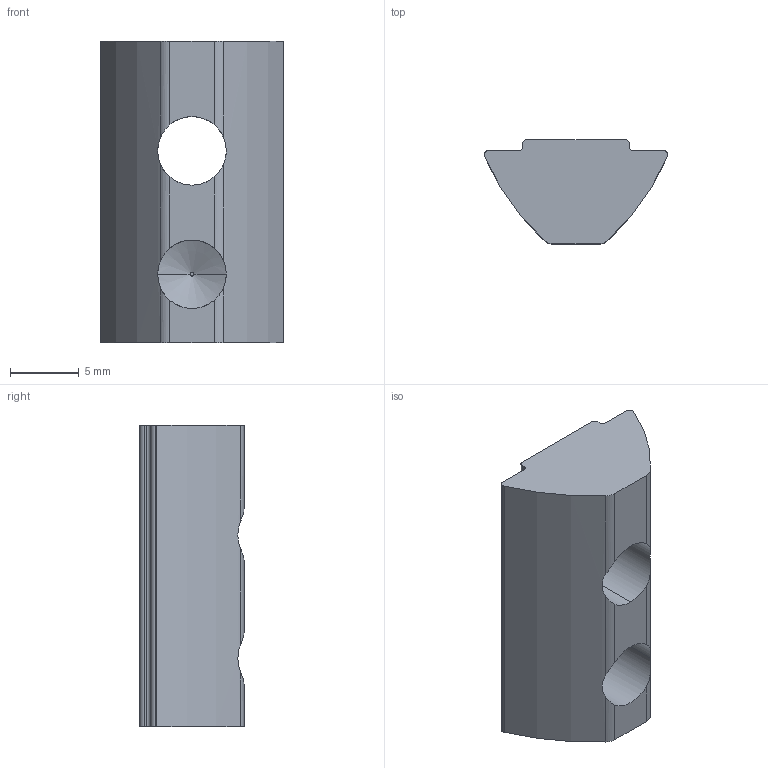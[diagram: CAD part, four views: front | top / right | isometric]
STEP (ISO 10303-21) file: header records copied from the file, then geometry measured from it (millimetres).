
FILE_DESCRIPTION(('STEP AP214'),'1');
FILE_NAME('C:/TPO v2/SharedFS/Outgoing/fath_096336.stp','2016-08-26T12:36:35',('TraceParts'),('TraceParts S.A.'),'Spatial InterOp 3D',' ',' ');
FILE_SCHEMA(('automotive_design'));
Length unit declared in the file: millimetre
Products named in the file (1): fath_096336
Bounding box: 13.4 x 7.6 x 22 mm (x, y, z)
Volume: 1309.3 mm3; surface area: 1084.1 mm2
Topology: 1 solids, 1 shells, 33 faces, 94 edges, 62 vertices
Faces by surface type: cylinder 20, plane 11, cone 2
Entity records: 1431 total; most frequent: CARTESIAN_POINT 268, ORIENTED_EDGE 188, DIRECTION 184, EDGE_CURVE 94, AXIS2_PLACEMENT_3D 70, VERTEX_POINT 62, LINE 44, VECTOR 44
